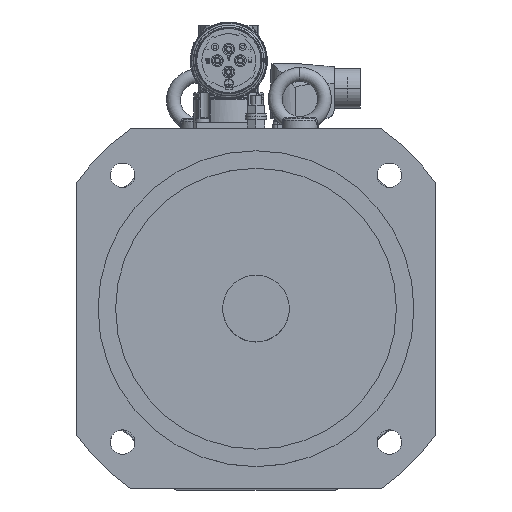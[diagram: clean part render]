
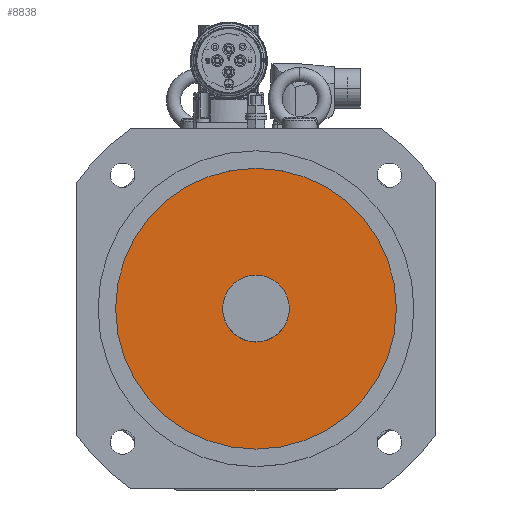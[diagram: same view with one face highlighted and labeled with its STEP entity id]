
A CAD part, top view. The second image highlights one B-rep face of the part: STEP entity #8838.
In plain terms, the highlighted planar face has unit normal (0, 0, 1).
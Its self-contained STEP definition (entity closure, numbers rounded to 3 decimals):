
#2271 = CIRCLE ( 'NONE', #5782, 80. ) ;
#2298 = CIRCLE ( 'NONE', #5775, 19. ) ;
#4454 = CARTESIAN_POINT ( 'NONE',  ( 0., 0., 52. ) ) ;
#4471 = PLANE ( 'NONE',  #31032 ) ;
#4501 = DIRECTION ( 'NONE',  ( 1., 0., 0. ) ) ;
#4502 = DIRECTION ( 'NONE',  ( 0., 0., 1. ) ) ;
#5532 = AXIS2_PLACEMENT_3D ( 'NONE', #17286, #17297, #17298 ) ;
#5534 = AXIS2_PLACEMENT_3D ( 'NONE', #17299, #17300, #17301 ) ;
#5775 = AXIS2_PLACEMENT_3D ( 'NONE', #21433, #21450, #21451 ) ;
#5782 = AXIS2_PLACEMENT_3D ( 'NONE', #21482, #21485, #21486 ) ;
#6973 = CIRCLE ( 'NONE', #5534, 19. ) ;
#6976 = CIRCLE ( 'NONE', #5532, 80. ) ;
#8838 = ADVANCED_FACE ( 'NONE', ( #25017, #25024 ), #4471, .T. ) ;
#12859 = VERTEX_POINT ( 'NONE', #16173 ) ;
#12861 = VERTEX_POINT ( 'NONE', #16175 ) ;
#12862 = VERTEX_POINT ( 'NONE', #16176 ) ;
#12863 = VERTEX_POINT ( 'NONE', #16177 ) ;
#16173 = CARTESIAN_POINT ( 'NONE',  ( 80., 0., 52. ) ) ;
#16175 = CARTESIAN_POINT ( 'NONE',  ( -80., 0., 52. ) ) ;
#16176 = CARTESIAN_POINT ( 'NONE',  ( -19., 0., 52. ) ) ;
#16177 = CARTESIAN_POINT ( 'NONE',  ( 19., 0., 52. ) ) ;
#17286 = CARTESIAN_POINT ( 'NONE',  ( 0., 0., 52. ) ) ;
#17297 = DIRECTION ( 'NONE',  ( 0., 0., 1. ) ) ;
#17298 = DIRECTION ( 'NONE',  ( 1., 0., 0. ) ) ;
#17299 = CARTESIAN_POINT ( 'NONE',  ( 0., 0., 52. ) ) ;
#17300 = DIRECTION ( 'NONE',  ( 0., 0., 1. ) ) ;
#17301 = DIRECTION ( 'NONE',  ( 1., 0., 0. ) ) ;
#20421 = EDGE_CURVE ( 'NONE', #12859, #12861, #6976, .T. ) ;
#20422 = EDGE_CURVE ( 'NONE', #12862, #12863, #6973, .T. ) ;
#21433 = CARTESIAN_POINT ( 'NONE',  ( 0., 0., 52. ) ) ;
#21450 = DIRECTION ( 'NONE',  ( 0., 0., 1. ) ) ;
#21451 = DIRECTION ( 'NONE',  ( 1., 0., 0. ) ) ;
#21482 = CARTESIAN_POINT ( 'NONE',  ( 0., 0., 52. ) ) ;
#21485 = DIRECTION ( 'NONE',  ( 0., 0., 1. ) ) ;
#21486 = DIRECTION ( 'NONE',  ( 1., 0., 0. ) ) ;
#25017 = FACE_OUTER_BOUND ( 'NONE', #27219, .T. ) ;
#25024 = FACE_BOUND ( 'NONE', #27215, .T. ) ;
#27215 = EDGE_LOOP ( 'NONE', ( #31326, #31325 ) ) ;
#27219 = EDGE_LOOP ( 'NONE', ( #31328, #31327 ) ) ;
#27813 = EDGE_CURVE ( 'NONE', #12863, #12862, #2298, .T. ) ;
#27828 = EDGE_CURVE ( 'NONE', #12861, #12859, #2271, .T. ) ;
#31032 = AXIS2_PLACEMENT_3D ( 'NONE', #4454, #4502, #4501 ) ;
#31325 = ORIENTED_EDGE ( 'NONE', *, *, #27813, .F. ) ;
#31326 = ORIENTED_EDGE ( 'NONE', *, *, #20422, .F. ) ;
#31327 = ORIENTED_EDGE ( 'NONE', *, *, #27828, .T. ) ;
#31328 = ORIENTED_EDGE ( 'NONE', *, *, #20421, .T. ) ;
